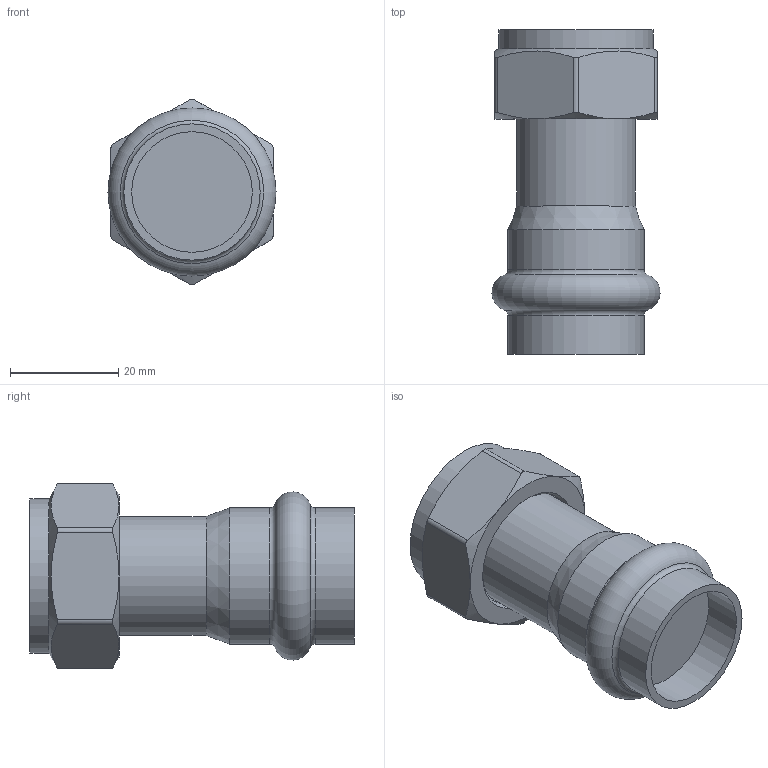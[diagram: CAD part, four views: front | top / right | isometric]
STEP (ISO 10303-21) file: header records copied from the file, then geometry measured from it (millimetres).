
FILE_DESCRIPTION(('STEP AP203'), '1');
FILE_NAME('VTi.908.I.002205', '', ('UNSPECIFIED'), ('UNSPECIFIED'), 'C3D Converter', 'C3D Toolkit', '');
FILE_SCHEMA(('CONFIG_CONTROL_DESIGN'));
Length unit declared in the file: millimetre
Bounding box: 31.1 x 60 x 34.33 mm (x, y, z)
Volume: 26053.9 mm3; surface area: 8284.9 mm2
Topology: 1 solids, 1 shells, 38 faces, 82 edges, 50 vertices
Faces by surface type: cylinder 13, plane 12, cone 10, torus 3
Full cylindrical faces by diameter (mm): 22 x1, 22.3 x1, 22.5 x1, 24.118 x1, 25.2 x2, 28.5 x1
Entity records: 1884 total; most frequent: CARTESIAN_POINT 1114, DIRECTION 140, ORIENTED_EDGE 136, EDGE_CURVE 68, AXIS2_PLACEMENT_3D 64, EDGE_LOOP 56, VERTEX_POINT 50, ADVANCED_FACE 38
